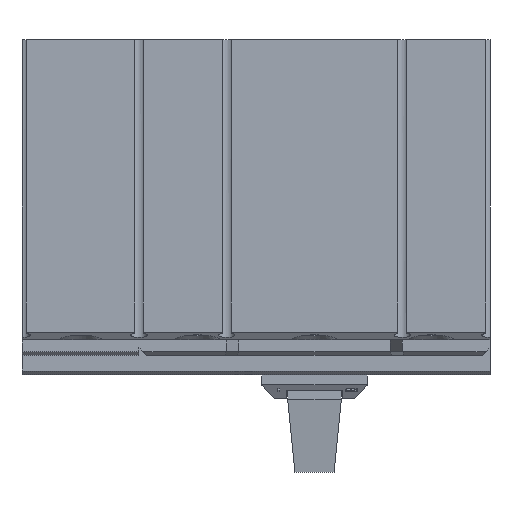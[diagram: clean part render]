
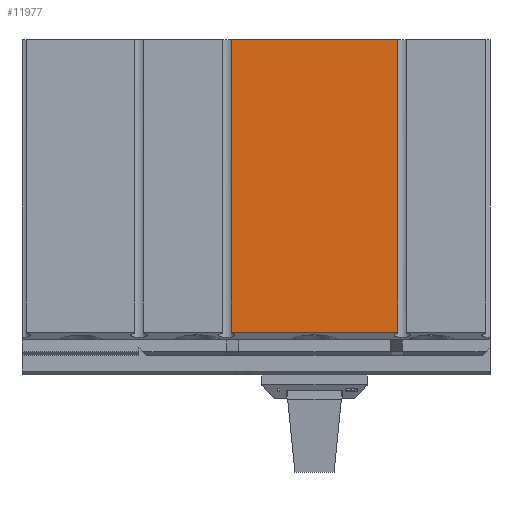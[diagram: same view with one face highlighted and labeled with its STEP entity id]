
A CAD part, front view. The second image highlights one B-rep face of the part: STEP entity #11977.
In plain terms, the highlighted planar face has unit normal (0, -1, 0).
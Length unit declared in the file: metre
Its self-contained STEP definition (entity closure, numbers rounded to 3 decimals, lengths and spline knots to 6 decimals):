
#733=FACE_OUTER_BOUND('',#1385,.T.);
#1385=EDGE_LOOP('',(#10054,#10055,#10056,#10057));
#2924=LINE('',#18975,#4427);
#2926=LINE('',#18979,#4429);
#2927=LINE('',#18981,#4430);
#2928=LINE('',#18982,#4431);
#4427=VECTOR('',#15133,0.075);
#4429=VECTOR('',#15137,0.0428);
#4430=VECTOR('',#15138,0.075);
#4431=VECTOR('',#15139,0.0428);
#5587=VERTEX_POINT('',#18972);
#5588=VERTEX_POINT('',#18974);
#5589=VERTEX_POINT('',#18978);
#5590=VERTEX_POINT('',#18980);
#7140=EDGE_CURVE('',#5587,#5588,#2924,.T.);
#7142=EDGE_CURVE('',#5589,#5587,#2926,.T.);
#7143=EDGE_CURVE('',#5589,#5590,#2927,.T.);
#7144=EDGE_CURVE('',#5588,#5590,#2928,.T.);
#10054=ORIENTED_EDGE('',*,*,#7142,.F.);
#10055=ORIENTED_EDGE('',*,*,#7143,.T.);
#10056=ORIENTED_EDGE('',*,*,#7144,.F.);
#10057=ORIENTED_EDGE('',*,*,#7140,.F.);
#11410=PLANE('',#12660);
#11977=ADVANCED_FACE('',(#733),#11410,.T.);
#12660=AXIS2_PLACEMENT_3D('',#18977,#15135,#15136);
#15133=DIRECTION('',(0.,0.,-1.));
#15135=DIRECTION('center_axis',(0.,-1.,0.));
#15136=DIRECTION('ref_axis',(0.,0.,-1.));
#15137=DIRECTION('',(1.,0.,0.));
#15138=DIRECTION('',(0.,0.,-1.));
#15139=DIRECTION('',(-1.,0.,0.));
#18972=CARTESIAN_POINT('',(0.0214,-0.07,0.077));
#18974=CARTESIAN_POINT('',(0.0214,-0.07,0.002));
#18975=CARTESIAN_POINT('',(0.0214,-0.07,0.077));
#18977=CARTESIAN_POINT('Origin',(-0.045,-0.07,0.077));
#18978=CARTESIAN_POINT('',(-0.0214,-0.07,0.077));
#18979=CARTESIAN_POINT('',(-0.0214,-0.07,0.077));
#18980=CARTESIAN_POINT('',(-0.0214,-0.07,0.002));
#18981=CARTESIAN_POINT('',(-0.0214,-0.07,0.077));
#18982=CARTESIAN_POINT('',(0.0214,-0.07,0.002));
